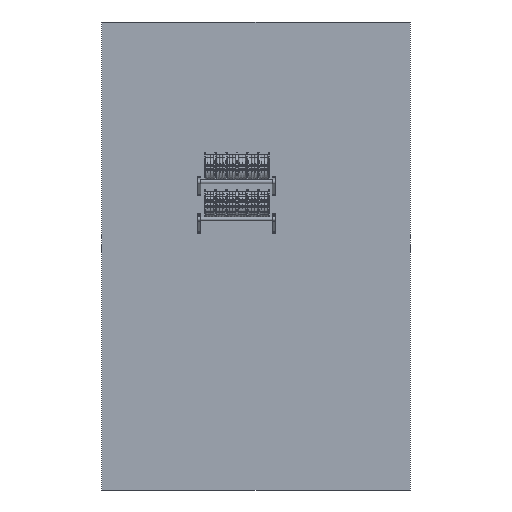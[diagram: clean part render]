
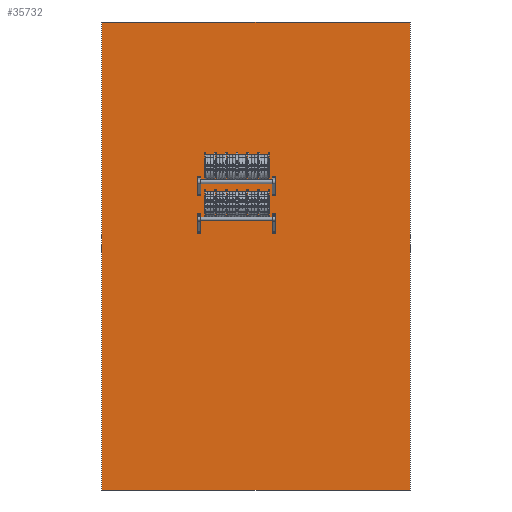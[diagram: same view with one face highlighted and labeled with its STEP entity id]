
A CAD part, left-side view. The second image highlights one B-rep face of the part: STEP entity #35732.
In plain terms, the highlighted planar face has unit normal (-1, 0, 0).
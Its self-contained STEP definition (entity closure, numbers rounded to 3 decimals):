
#2059=FACE_BOUND('',#6441,.T.);
#2060=FACE_BOUND('',#6442,.T.);
#2900=PLANE('',#38636);
#3968=FACE_OUTER_BOUND('',#6440,.T.);
#6440=EDGE_LOOP('',(#27985,#27986,#27987,#27988));
#6441=EDGE_LOOP('',(#27989));
#6442=EDGE_LOOP('',(#27990));
#9633=LINE('',#57305,#12363);
#9637=LINE('',#57313,#12367);
#9640=LINE('',#57319,#12370);
#9643=LINE('',#57324,#12373);
#12363=VECTOR('',#45503,10.);
#12367=VECTOR('',#45509,10.);
#12370=VECTOR('',#45514,10.);
#12373=VECTOR('',#45519,10.);
#14140=CIRCLE('',#38627,2.5);
#14142=CIRCLE('',#38630,2.5);
#17310=VERTEX_POINT('',#57293);
#17312=VERTEX_POINT('',#57299);
#17313=VERTEX_POINT('',#57303);
#17314=VERTEX_POINT('',#57304);
#17317=VERTEX_POINT('',#57312);
#17319=VERTEX_POINT('',#57318);
#21057=EDGE_CURVE('',#17310,#17310,#14140,.T.);
#21060=EDGE_CURVE('',#17312,#17312,#14142,.T.);
#21061=EDGE_CURVE('',#17313,#17314,#9633,.T.);
#21065=EDGE_CURVE('',#17314,#17317,#9637,.T.);
#21068=EDGE_CURVE('',#17317,#17319,#9640,.T.);
#21071=EDGE_CURVE('',#17319,#17313,#9643,.T.);
#27985=ORIENTED_EDGE('',*,*,#21071,.T.);
#27986=ORIENTED_EDGE('',*,*,#21061,.T.);
#27987=ORIENTED_EDGE('',*,*,#21065,.T.);
#27988=ORIENTED_EDGE('',*,*,#21068,.T.);
#27989=ORIENTED_EDGE('',*,*,#21060,.F.);
#27990=ORIENTED_EDGE('',*,*,#21057,.F.);
#35732=ADVANCED_FACE('',(#3968,#2059,#2060),#2900,.F.);
#38627=AXIS2_PLACEMENT_3D('',#57295,#45492,#45493);
#38630=AXIS2_PLACEMENT_3D('',#57301,#45499,#45500);
#38636=AXIS2_PLACEMENT_3D('',#57327,#45523,#45524);
#45492=DIRECTION('center_axis',(-1.,0.,0.));
#45493=DIRECTION('ref_axis',(0.,0.,-1.));
#45499=DIRECTION('center_axis',(-1.,0.,0.));
#45500=DIRECTION('ref_axis',(0.,0.,-1.));
#45503=DIRECTION('',(0.,1.,0.));
#45509=DIRECTION('',(0.,0.,-1.));
#45514=DIRECTION('',(0.,-1.,0.));
#45519=DIRECTION('',(0.,0.,1.));
#45523=DIRECTION('center_axis',(1.,0.,0.));
#45524=DIRECTION('ref_axis',(0.,0.,-1.));
#57293=CARTESIAN_POINT('',(114.,-13.,-56.5));
#57295=CARTESIAN_POINT('Origin',(114.,-13.,-59.));
#57299=CARTESIAN_POINT('',(114.,-13.,-170.5));
#57301=CARTESIAN_POINT('Origin',(114.,-13.,-173.));
#57303=CARTESIAN_POINT('',(114.,-894.513,942.199));
#57304=CARTESIAN_POINT('',(114.,1097.042,942.199));
#57305=CARTESIAN_POINT('',(114.,-894.513,942.199));
#57312=CARTESIAN_POINT('',(114.,1097.042,-2076.381));
#57313=CARTESIAN_POINT('',(114.,1097.042,942.199));
#57318=CARTESIAN_POINT('',(114.,-894.513,-2076.381));
#57319=CARTESIAN_POINT('',(114.,1097.042,-2076.381));
#57324=CARTESIAN_POINT('',(114.,-894.513,-2076.381));
#57327=CARTESIAN_POINT('Origin',(114.,101.264,-567.091));
